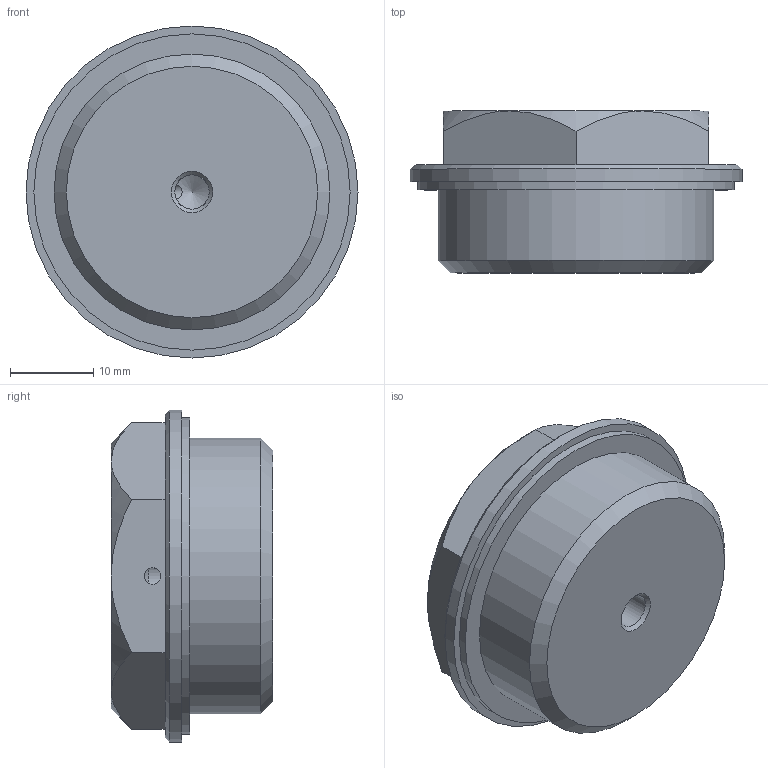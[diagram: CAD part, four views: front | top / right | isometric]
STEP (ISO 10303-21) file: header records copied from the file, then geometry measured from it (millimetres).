
FILE_DESCRIPTION( ( 'STEP AP203' ), '1' );
FILE_NAME( 'C:/Temp/Ganter_Step_05_03_2020/data/3_5/gn742/gn742_2/Threaded plug GN 742-40-G1-OSS-2.stp', '2020-03-12T13:39:48', ( 'License CC BY-ND 4.0' ), ( 'CADENAS' ), ' ', 'PARTsolutions', ' ' );
FILE_SCHEMA( ( 'CONFIG_CONTROL_DESIGN' ) );
Length unit declared in the file: millimetre
Products named in the file (1): _Threaded plug GN 742-40-G1-OSS-2
Bounding box: 40 x 19.5 x 40 mm (x, y, z)
Volume: 17660 mm3; surface area: 4735.4 mm2
Topology: 1 solids, 1 shells, 26 faces, 56 edges, 34 vertices
Faces by surface type: plane 11, cone 10, cylinder 5
Full cylindrical faces by diameter (mm): 2 x1, 4.134 x1, 33.249 x1, 38.1 x1, 40 x1
Entity records: 776 total; most frequent: CARTESIAN_POINT 229, DIRECTION 102, ORIENTED_EDGE 88, AXIS2_PLACEMENT_3D 45, EDGE_CURVE 44, EDGE_LOOP 39, VERTEX_POINT 32, FACE_OUTER_BOUND 31
